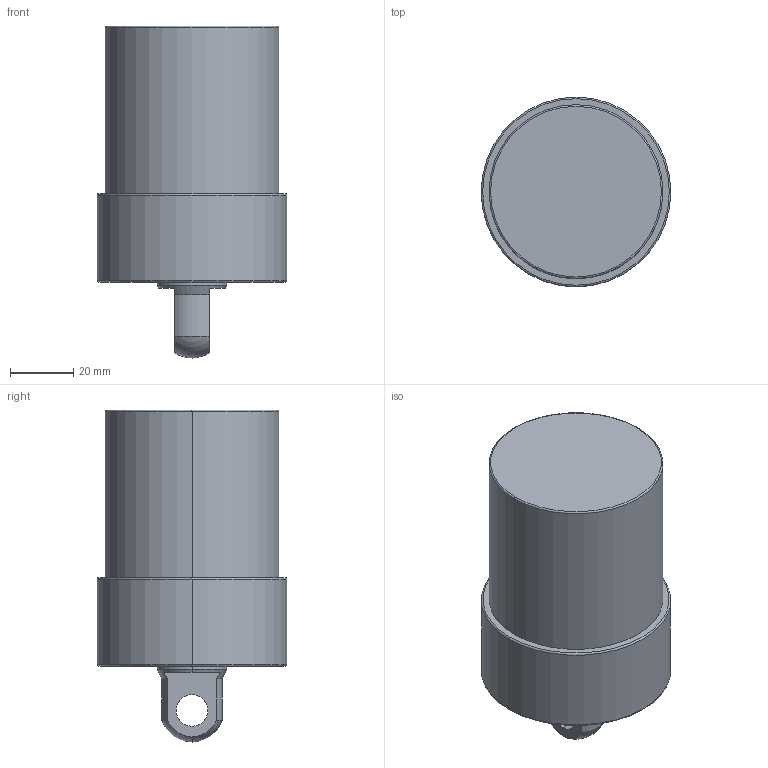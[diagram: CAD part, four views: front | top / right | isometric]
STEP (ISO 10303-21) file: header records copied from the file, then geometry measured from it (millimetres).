
FILE_DESCRIPTION (( 'STEP AP203' ), '1' );
FILE_NAME ('CLLU055-CP-040.STEP', '2017-05-12T10:44:28', ( '' ), ( '' ), 'SwSTEP 2.0', 'SolidWorks 2015', '' );
FILE_SCHEMA (( 'CONFIG_CONTROL_DESIGN' ));
Length unit declared in the file: millimetre
Products named in the file (1): CLLU055-CP-040
Bounding box: 60 x 60 x 105 mm (x, y, z)
Volume: 207316.4 mm3; surface area: 22411.5 mm2
Topology: 1 solids, 1 shells, 57 faces, 130 edges, 75 vertices
Faces by surface type: cylinder 22, cone 18, plane 9, torus 6, sphere 2
Entity records: 1643 total; most frequent: DIRECTION 308, CARTESIAN_POINT 267, ORIENTED_EDGE 244, AXIS2_PLACEMENT_3D 132, EDGE_CURVE 122, VERTEX_POINT 75, CIRCLE 74, EDGE_LOOP 67
